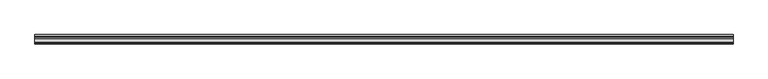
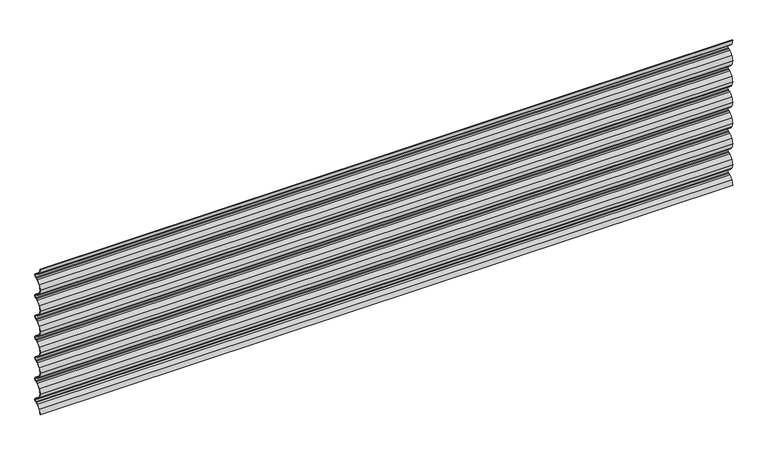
"""IFC4 building model written with IfcOpenShell, lengths in millimetres: plate geometry, Regolare Horizontal 623 : Regolare Horizontal 623."""

from ifc_helpers import new_model, si_unit, point, frame, frame_2d, origin, place, context, project, spatial, polyline, circle_curve, trimmed, segment, composite_curve, outline, extrude, source, transform, mapped, element, save


def plate_47d247f7(model_context):
    return source(origin(), model_context, "Body", "SweptSolid", [
        extrude(outline(composite_curve([segment(trimmed(circle_curve(frame_2d((38.4503244, 0.0)), 37.4503244), [point((6.5021495, 19.5407501))], [point((1.0, 0.0))], True, "CARTESIAN"), True, "CONTINUOUS"), segment(polyline([(1.0, 0.0), (0.0, 0.0)]), True, "CONTINUOUS"), segment(trimmed(circle_curve(frame_2d((38.4503244, 0.0)), 38.4503244), [point((0.0, 0.0))], [point((5.6490681, 20.062528))], False, "CARTESIAN"), True, "CONTINUOUS"), segment(trimmed(circle_curve(frame_2d((32.6206681, 3.5656452)), 31.6166783), [point((5.6490681, 20.062528))], [point((20.878867, 32.9211295))], False, "CARTESIAN"), True, "CONTINUOUS"), segment(polyline([(20.878867, 32.9211295), (28.0423924, 35.7903512), (31.4771017, 37.4367049)]), True, "CONTINUOUS"), segment(trimmed(circle_curve(frame_2d((28.0791236, 44.5257445)), 7.8613445), [point((31.4771017, 37.4367049))], [point((35.9404682, 44.5257445))], True, "CARTESIAN"), True, "CONTINUOUS"), segment(trimmed(circle_curve(frame_2d((28.0791236, 44.5257445)), 7.8613445), [point((35.9404682, 44.5257445))], [point((31.4771017, 51.6147842))], True, "CARTESIAN"), True, "CONTINUOUS"), segment(polyline([(31.4771017, 51.6147842), (28.0423924, 53.2611379), (20.878867, 56.1303596)]), True, "CONTINUOUS"), segment(trimmed(circle_curve(frame_2d((32.6206681, 85.4858438)), 31.6166783), [point((20.878867, 56.1303596))], [point((5.6490681, 68.9889611))], False, "CARTESIAN"), True, "CONTINUOUS"), segment(trimmed(circle_curve(frame_2d((38.4503244, 89.0514891)), 38.4503244), [point((5.6490681, 68.9889611))], [point((0.0, 89.0514891))], False, "CARTESIAN"), True, "CONTINUOUS"), segment(trimmed(circle_curve(frame_2d((38.4503244, 89.0514891)), 38.4503244), [point((0.0, 89.0514891))], [point((5.6490681, 109.1140171))], False, "CARTESIAN"), True, "CONTINUOUS"), segment(trimmed(circle_curve(frame_2d((32.6206681, 92.6171343)), 31.6166783), [point((5.6490681, 109.1140171))], [point((20.878867, 121.9726185))], False, "CARTESIAN"), True, "CONTINUOUS"), segment(polyline([(20.878867, 121.9726185), (28.0423924, 124.8418403), (31.4771017, 126.488194)]), True, "CONTINUOUS"), segment(trimmed(circle_curve(frame_2d((28.0791236, 133.5772336)), 7.8613445), [point((31.4771017, 126.488194))], [point((31.4771017, 140.6662733))], True, "CARTESIAN"), True, "CONTINUOUS"), segment(polyline([(31.4771017, 140.6662733), (28.0423924, 142.312627), (20.878867, 145.1818487)]), True, "CONTINUOUS"), segment(trimmed(circle_curve(frame_2d((32.6206681, 174.5373329)), 31.6166783), [point((20.878867, 145.1818487))], [point((5.6490681, 158.0404502))], False, "CARTESIAN"), True, "CONTINUOUS"), segment(trimmed(circle_curve(frame_2d((38.4503244, 178.1029782)), 38.4503244), [point((5.6490681, 158.0404502))], [point((0.0, 178.1029782))], False, "CARTESIAN"), True, "CONTINUOUS"), segment(trimmed(circle_curve(frame_2d((38.4503244, 178.1029782)), 38.4503244), [point((0.0, 178.1029782))], [point((5.6490681, 198.1655062))], False, "CARTESIAN"), True, "CONTINUOUS"), segment(trimmed(circle_curve(frame_2d((32.6206681, 181.6686234)), 31.6166783), [point((5.6490681, 198.1655062))], [point((20.878867, 211.0241076))], False, "CARTESIAN"), True, "CONTINUOUS"), segment(polyline([(20.878867, 211.0241076), (28.0423924, 213.8933293), (31.4771017, 215.5396831)]), True, "CONTINUOUS"), segment(trimmed(circle_curve(frame_2d((28.0791236, 222.6287227)), 7.8613445), [point((31.4771017, 215.5396831))], [point((31.4771017, 229.7177623))], True, "CARTESIAN"), True, "CONTINUOUS"), segment(polyline([(31.4771017, 229.7177623), (28.0423924, 231.3641161), (20.878867, 234.2333378)]), True, "CONTINUOUS"), segment(trimmed(circle_curve(frame_2d((32.6206681, 263.588822)), 31.6166783), [point((20.878867, 234.2333378))], [point((5.6490681, 247.0919392))], False, "CARTESIAN"), True, "CONTINUOUS"), segment(trimmed(circle_curve(frame_2d((38.4503244, 267.1544672)), 38.4503244), [point((5.6490681, 247.0919392))], [point((0.0, 267.1544672))], False, "CARTESIAN"), True, "CONTINUOUS"), segment(trimmed(circle_curve(frame_2d((38.4503244, 267.1544672)), 38.4503244), [point((0.0, 267.1544672))], [point((5.6490681, 287.2169952))], False, "CARTESIAN"), True, "CONTINUOUS"), segment(trimmed(circle_curve(frame_2d((32.6206681, 270.7201125)), 31.6166783), [point((5.6490681, 287.2169952))], [point((20.878867, 300.0755967))], False, "CARTESIAN"), True, "CONTINUOUS"), segment(polyline([(20.878867, 300.0755967), (28.0423924, 302.9448184), (31.4771017, 304.5911721)]), True, "CONTINUOUS"), segment(trimmed(circle_curve(frame_2d((28.0791236, 311.6802118)), 7.8613445), [point((31.4771017, 304.5911721))], [point((31.4771017, 318.7692514))], True, "CARTESIAN"), True, "CONTINUOUS"), segment(polyline([(31.4771017, 318.7692514), (28.0423924, 320.4156051), (20.878867, 323.2848269)]), True, "CONTINUOUS"), segment(trimmed(circle_curve(frame_2d((32.6206681, 352.6403111)), 31.6166783), [point((20.878867, 323.2848269))], [point((5.6490681, 336.1434283))], False, "CARTESIAN"), True, "CONTINUOUS"), segment(trimmed(circle_curve(frame_2d((38.4503244, 356.2059563)), 38.4503244), [point((5.6490681, 336.1434283))], [point((0.0, 356.2059563))], False, "CARTESIAN"), True, "CONTINUOUS"), segment(trimmed(circle_curve(frame_2d((38.4503244, 356.2059563)), 38.4503244), [point((0.0, 356.2059563))], [point((5.6490681, 376.2684843))], False, "CARTESIAN"), True, "CONTINUOUS"), segment(trimmed(circle_curve(frame_2d((32.6206681, 359.7716016)), 31.6166783), [point((5.6490681, 376.2684843))], [point((20.878867, 389.1270858))], False, "CARTESIAN"), True, "CONTINUOUS"), segment(polyline([(20.878867, 389.1270858), (28.0423924, 391.9963075), (31.4771017, 393.6426612)]), True, "CONTINUOUS"), segment(trimmed(circle_curve(frame_2d((28.0791236, 400.7317009)), 7.8613445), [point((31.4771017, 393.6426612))], [point((31.4771017, 407.8207405))], True, "CARTESIAN"), True, "CONTINUOUS"), segment(polyline([(31.4771017, 407.8207405), (28.0423924, 409.4670942), (20.878867, 412.3363159)]), True, "CONTINUOUS"), segment(trimmed(circle_curve(frame_2d((32.6206681, 441.6918002)), 31.6166783), [point((20.878867, 412.3363159))], [point((5.6490681, 425.1949174))], False, "CARTESIAN"), True, "CONTINUOUS"), segment(trimmed(circle_curve(frame_2d((38.4503244, 445.2574454)), 38.4503244), [point((5.6490681, 425.1949174))], [point((0.0, 445.2574454))], False, "CARTESIAN"), True, "CONTINUOUS"), segment(trimmed(circle_curve(frame_2d((38.4503244, 445.2574454)), 38.4503244), [point((0.0, 445.2574454))], [point((5.6490681, 465.3199734))], False, "CARTESIAN"), True, "CONTINUOUS"), segment(trimmed(circle_curve(frame_2d((32.6206681, 448.8230907)), 31.6166783), [point((5.6490681, 465.3199734))], [point((20.878867, 478.1785749))], False, "CARTESIAN"), True, "CONTINUOUS"), segment(polyline([(20.878867, 478.1785749), (28.0423924, 481.0477966), (31.4771017, 482.6941503)]), True, "CONTINUOUS"), segment(trimmed(circle_curve(frame_2d((28.0791236, 489.7831899)), 7.8613445), [point((31.4771017, 482.6941503))], [point((31.4771017, 496.8722296))], True, "CARTESIAN"), True, "CONTINUOUS"), segment(polyline([(31.4771017, 496.8722296), (28.0423924, 498.5185833), (20.878867, 501.387805)]), True, "CONTINUOUS"), segment(trimmed(circle_curve(frame_2d((32.6206681, 530.7432892)), 31.6166783), [point((20.878867, 501.387805))], [point((5.6490681, 514.2464065))], False, "CARTESIAN"), True, "CONTINUOUS"), segment(trimmed(circle_curve(frame_2d((38.4503244, 534.3089345)), 38.4503244), [point((5.6490681, 514.2464065))], [point((0.0, 534.3089345))], False, "CARTESIAN"), True, "CONTINUOUS"), segment(trimmed(circle_curve(frame_2d((38.4503244, 534.3089345)), 38.4503244), [point((0.0, 534.3089345))], [point((5.6490681, 554.3714625))], False, "CARTESIAN"), True, "CONTINUOUS"), segment(trimmed(circle_curve(frame_2d((32.6206681, 537.8745797)), 31.6166783), [point((5.6490681, 554.3714625))], [point((20.878867, 567.2300639))], False, "CARTESIAN"), True, "CONTINUOUS"), segment(polyline([(20.878867, 567.2300639), (28.0423924, 570.0992857), (31.4771017, 571.7456394)]), True, "CONTINUOUS"), segment(trimmed(circle_curve(frame_2d((28.0791236, 578.834679)), 7.8613445), [point((31.4771017, 571.7456394))], [point((31.4771017, 585.9237187))], True, "CARTESIAN"), True, "CONTINUOUS"), segment(polyline([(31.4771017, 585.9237187), (28.0423924, 587.5700724), (20.878867, 590.4392941)]), True, "CONTINUOUS"), segment(trimmed(circle_curve(frame_2d((32.6206681, 619.7947783)), 31.6166783), [point((20.878867, 590.4392941))], [point((5.6490681, 603.2978956))], False, "CARTESIAN"), True, "CONTINUOUS"), segment(trimmed(circle_curve(frame_2d((38.4503244, 623.3604236)), 38.4503244), [point((5.6490681, 603.2978956))], [point((0.0, 623.3604236))], False, "CARTESIAN"), True, "CONTINUOUS"), segment(polyline([(0.0, 623.3604236), (1.0, 623.3604236)]), True, "CONTINUOUS"), segment(trimmed(circle_curve(frame_2d((38.4503244, 623.3604236)), 37.4503244), [point((1.0, 623.3604236))], [point((6.5021495, 603.8196734))], True, "CARTESIAN"), True, "CONTINUOUS"), segment(trimmed(circle_curve(frame_2d((32.6206681, 619.7947783)), 30.6166783), [point((6.5021495, 603.8196734))], [point((21.2504634, 591.3676885))], True, "CARTESIAN"), True, "CONTINUOUS"), segment(polyline([(21.2504634, 591.3676885), (28.4448583, 588.4861026), (31.9093405, 586.8254778)]), True, "CONTINUOUS"), segment(trimmed(circle_curve(frame_2d((28.0791236, 578.834679)), 8.8613445), [point((31.9093405, 586.8254778))], [point((31.9093405, 570.8438802))], False, "CARTESIAN"), True, "CONTINUOUS"), segment(polyline([(31.9093405, 570.8438802), (28.4448583, 569.1832555), (21.2504634, 566.3016696)]), True, "CONTINUOUS"), segment(trimmed(circle_curve(frame_2d((32.6206681, 537.8745797)), 30.6166783), [point((21.2504634, 566.3016696))], [point((6.5021495, 553.8496846))], True, "CARTESIAN"), True, "CONTINUOUS"), segment(trimmed(circle_curve(frame_2d((38.4503244, 534.3089345)), 37.4503244), [point((6.5021495, 553.8496846))], [point((1.0, 534.3089345))], True, "CARTESIAN"), True, "CONTINUOUS"), segment(trimmed(circle_curve(frame_2d((38.4503244, 534.3089345)), 37.4503244), [point((1.0, 534.3089345))], [point((6.5021495, 514.7681843))], True, "CARTESIAN"), True, "CONTINUOUS"), segment(trimmed(circle_curve(frame_2d((32.6206681, 530.7432892)), 30.6166783), [point((6.5021495, 514.7681843))], [point((21.2504634, 502.3161994))], True, "CARTESIAN"), True, "CONTINUOUS"), segment(polyline([(21.2504634, 502.3161994), (28.4448583, 499.4346135), (31.9093405, 497.7739888)]), True, "CONTINUOUS"), segment(trimmed(circle_curve(frame_2d((28.0791236, 489.7831899)), 8.8613445), [point((31.9093405, 497.7739888))], [point((31.9093405, 481.7923911))], False, "CARTESIAN"), True, "CONTINUOUS"), segment(polyline([(31.9093405, 481.7923911), (28.4448583, 480.1317664), (21.2504634, 477.2501805)]), True, "CONTINUOUS"), segment(trimmed(circle_curve(frame_2d((32.6206681, 448.8230907)), 30.6166783), [point((21.2504634, 477.2501805))], [point((6.5021495, 464.7981955))], True, "CARTESIAN"), True, "CONTINUOUS"), segment(trimmed(circle_curve(frame_2d((38.4503244, 445.2574454)), 37.4503244), [point((6.5021495, 464.7981955))], [point((1.0, 445.2574454))], True, "CARTESIAN"), True, "CONTINUOUS"), segment(trimmed(circle_curve(frame_2d((38.4503244, 445.2574454)), 37.4503244), [point((1.0, 445.2574454))], [point((6.5021495, 425.7166953))], True, "CARTESIAN"), True, "CONTINUOUS"), segment(trimmed(circle_curve(frame_2d((32.6206681, 441.6918002)), 30.6166783), [point((6.5021495, 425.7166953))], [point((21.2504634, 413.2647103))], True, "CARTESIAN"), True, "CONTINUOUS"), segment(polyline([(21.2504634, 413.2647103), (28.4448583, 410.3831244), (31.9093405, 408.7224997)]), True, "CONTINUOUS"), segment(trimmed(circle_curve(frame_2d((28.0791236, 400.7317009)), 8.8613445), [point((31.9093405, 408.7224997))], [point((31.9093405, 392.740902))], False, "CARTESIAN"), True, "CONTINUOUS"), segment(polyline([(31.9093405, 392.740902), (28.4448583, 391.0802773), (21.2504634, 388.1986914)]), True, "CONTINUOUS"), segment(trimmed(circle_curve(frame_2d((32.6206681, 359.7716016)), 30.6166783), [point((21.2504634, 388.1986914))], [point((6.5021495, 375.7467065))], True, "CARTESIAN"), True, "CONTINUOUS"), segment(trimmed(circle_curve(frame_2d((38.4503244, 356.2059563)), 37.4503244), [point((6.5021495, 375.7467065))], [point((1.0, 356.2059563))], True, "CARTESIAN"), True, "CONTINUOUS"), segment(trimmed(circle_curve(frame_2d((38.4503244, 356.2059563)), 37.4503244), [point((1.0, 356.2059563))], [point((6.5021495, 336.6652062))], True, "CARTESIAN"), True, "CONTINUOUS"), segment(trimmed(circle_curve(frame_2d((32.6206681, 352.6403111)), 30.6166783), [point((6.5021495, 336.6652062))], [point((21.2504634, 324.2132212))], True, "CARTESIAN"), True, "CONTINUOUS"), segment(polyline([(21.2504634, 324.2132212), (28.4448583, 321.3316353), (31.9093405, 319.6710106)]), True, "CONTINUOUS"), segment(trimmed(circle_curve(frame_2d((28.0791236, 311.6802118)), 8.8613445), [point((31.9093405, 319.6710106))], [point((31.9093405, 303.689413))], False, "CARTESIAN"), True, "CONTINUOUS"), segment(polyline([(31.9093405, 303.689413), (28.4448583, 302.0287882), (21.2504634, 299.1472023)]), True, "CONTINUOUS"), segment(trimmed(circle_curve(frame_2d((32.6206681, 270.7201125)), 30.6166783), [point((21.2504634, 299.1472023))], [point((6.5021495, 286.6952174))], True, "CARTESIAN"), True, "CONTINUOUS"), segment(trimmed(circle_curve(frame_2d((38.4503244, 267.1544672)), 37.4503244), [point((6.5021495, 286.6952174))], [point((1.0, 267.1544672))], True, "CARTESIAN"), True, "CONTINUOUS"), segment(trimmed(circle_curve(frame_2d((38.4503244, 267.1544672)), 37.4503244), [point((1.0, 267.1544672))], [point((6.5021495, 247.6137171))], True, "CARTESIAN"), True, "CONTINUOUS"), segment(trimmed(circle_curve(frame_2d((32.6206681, 263.588822)), 30.6166783), [point((6.5021495, 247.6137171))], [point((21.2504634, 235.1617322))], True, "CARTESIAN"), True, "CONTINUOUS"), segment(polyline([(21.2504634, 235.1617322), (28.4448583, 232.2801463), (31.9093405, 230.6195215)]), True, "CONTINUOUS"), segment(trimmed(circle_curve(frame_2d((28.0791236, 222.6287227)), 8.8613445), [point((31.9093405, 230.6195215))], [point((31.9093405, 214.6379239))], False, "CARTESIAN"), True, "CONTINUOUS"), segment(polyline([(31.9093405, 214.6379239), (28.4448583, 212.9772992), (21.2504634, 210.0957133)]), True, "CONTINUOUS"), segment(trimmed(circle_curve(frame_2d((32.6206681, 181.6686234)), 30.6166783), [point((21.2504634, 210.0957133))], [point((6.5021495, 197.6437283))], True, "CARTESIAN"), True, "CONTINUOUS"), segment(trimmed(circle_curve(frame_2d((38.4503244, 178.1029782)), 37.4503244), [point((6.5021495, 197.6437283))], [point((1.0, 178.1029782))], True, "CARTESIAN"), True, "CONTINUOUS"), segment(trimmed(circle_curve(frame_2d((38.4503244, 178.1029782)), 37.4503244), [point((1.0, 178.1029782))], [point((6.5021495, 158.562228))], True, "CARTESIAN"), True, "CONTINUOUS"), segment(trimmed(circle_curve(frame_2d((32.6206681, 174.5373329)), 30.6166783), [point((6.5021495, 158.562228))], [point((21.2504634, 146.1102431))], True, "CARTESIAN"), True, "CONTINUOUS"), segment(polyline([(21.2504634, 146.1102431), (28.4448583, 143.2286572), (31.9093405, 141.5680324)]), True, "CONTINUOUS"), segment(trimmed(circle_curve(frame_2d((28.0791236, 133.5772336)), 8.8613445), [point((31.9093405, 141.5680324))], [point((31.9093405, 125.5864348))], False, "CARTESIAN"), True, "CONTINUOUS"), segment(polyline([(31.9093405, 125.5864348), (28.4448583, 123.9258101), (21.2504634, 121.0442242)]), True, "CONTINUOUS"), segment(trimmed(circle_curve(frame_2d((32.6206681, 92.6171343)), 30.6166783), [point((21.2504634, 121.0442242))], [point((6.5021495, 108.5922392))], True, "CARTESIAN"), True, "CONTINUOUS"), segment(trimmed(circle_curve(frame_2d((38.4503244, 89.0514891)), 37.4503244), [point((6.5021495, 108.5922392))], [point((1.0, 89.0514891))], True, "CARTESIAN"), True, "CONTINUOUS"), segment(trimmed(circle_curve(frame_2d((38.4503244, 89.0514891)), 37.4503244), [point((1.0, 89.0514891))], [point((6.5021495, 69.5107389))], True, "CARTESIAN"), True, "CONTINUOUS"), segment(trimmed(circle_curve(frame_2d((32.6206681, 85.4858438)), 30.6166783), [point((6.5021495, 69.5107389))], [point((21.2504634, 57.058754))], True, "CARTESIAN"), True, "CONTINUOUS"), segment(polyline([(21.2504634, 57.058754), (28.4448583, 54.1771681), (31.9093405, 52.5165434)]), True, "CONTINUOUS"), segment(trimmed(circle_curve(frame_2d((28.0791236, 44.5257445)), 8.8613445), [point((31.9093405, 52.5165434))], [point((36.9404682, 44.5257445))], False, "CARTESIAN"), True, "CONTINUOUS"), segment(trimmed(circle_curve(frame_2d((28.0791236, 44.5257445)), 8.8613445), [point((36.9404682, 44.5257445))], [point((31.9093405, 36.5349457))], False, "CARTESIAN"), True, "CONTINUOUS"), segment(polyline([(31.9093405, 36.5349457), (28.4448583, 34.874321), (21.2504634, 31.9927351)]), True, "CONTINUOUS"), segment(trimmed(circle_curve(frame_2d((32.6206681, 3.5656452)), 30.6166783), [point((21.2504634, 31.9927351))], [point((6.5021495, 19.5407501))], True, "CARTESIAN"), True, "CONTINUOUS")], self_intersect=False)), frame((-1407.0, 0.0, 0.0), z_axis=(1.0, 0.0, 0.0), x_axis=(0.0, 1.0, 0.0)), (0.0, 0.0, 1.0), 2814.0),
    ])


if __name__ == "__main__":
    model = new_model("IFC4")
    model_context = context("Model", 3, world=origin())
    ifc_project = project(units=[si_unit("LENGTHUNIT", "METRE", prefix="MILLI")], contexts=[model_context])
    site = spatial("IfcSite", under=ifc_project)
    building = spatial("IfcBuilding", under=site)
    placement = place(None, origin())
    plate_shape = plate_47d247f7(model_context)
    element("IfcPlate", 1, ObjectType="Regolare Horizontal 623 : Regolare Horizontal 623", at=placement, inside=building, context=model_context, shape_type="MappedRepresentation", body=[
        mapped(plate_shape, transform((0.0, 0.0, 0.0), x_axis=(1.0, 0.0, 0.0), y_axis=(0.0, 1.0, 0.0), z_axis=(0.0, 0.0, 1.0))),
    ])
    save(model, "model.ifc")
